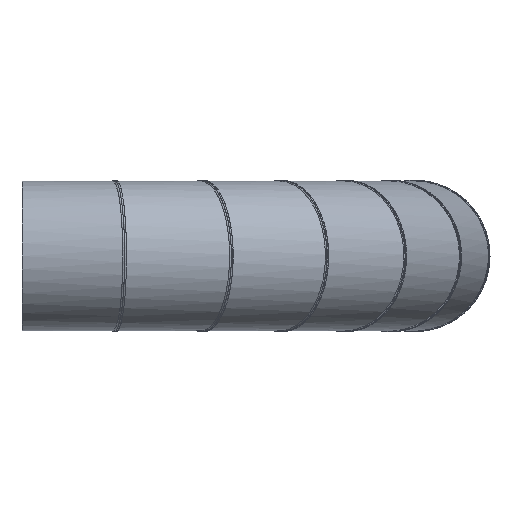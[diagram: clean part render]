
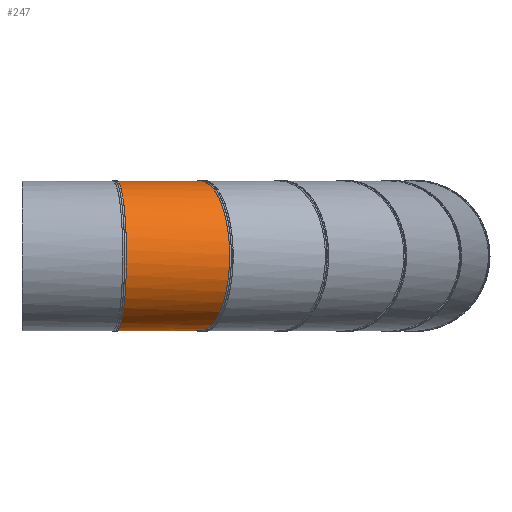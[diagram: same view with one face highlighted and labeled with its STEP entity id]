
A CAD part, front view. The second image highlights one B-rep face of the part: STEP entity #247.
In plain terms, the highlighted cylindrical face has radius 315 mm (diameter 630 mm), a full revolution.
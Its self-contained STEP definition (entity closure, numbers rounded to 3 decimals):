
#74=ORIENTED_EDGE('',*,*,#126,.F.);
#75=ORIENTED_EDGE('',*,*,#127,.T.);
#126=EDGE_CURVE('',#152,#152,#172,.T.);
#127=EDGE_CURVE('',#153,#153,#173,.T.);
#152=VERTEX_POINT('',#445);
#153=VERTEX_POINT('',#483);
#172=B_SPLINE_CURVE_WITH_KNOTS('',3,(#408,#409,#410,#411,#412,#413,#414,
#415,#416,#417,#418,#419,#420,#421,#422,#423,#424,#425,#426,#427,#428,#429,
#430,#431,#432,#433,#434,#435,#436,#437,#438,#439,#440,#441,#442,#443,#444),
 .UNSPECIFIED.,.T.,.F.,(1,1,1,1,1,1,1,1,1,1,1,1,1,1,1,1,1,1,1,1,1,1,1,1,
1,1,1,1,1,1,1,1,1,1,1,1,1,1,1,1,1),(-0.124,-0.062,
-0.031,0.,0.031,0.062,
0.124,0.186,0.249,0.311,
0.373,0.435,0.497,0.559,
0.622,0.684,0.746,0.808,
0.87,0.932,0.995,1.057,
1.119,1.181,1.243,1.305,1.368,
1.43,1.492,1.554,1.616,1.678,
1.741,1.803,1.865,1.927,1.958,
1.989,2.02,2.051,2.114),
 .UNSPECIFIED.);
#173=B_SPLINE_CURVE_WITH_KNOTS('',3,(#446,#447,#448,#449,#450,#451,#452,
#453,#454,#455,#456,#457,#458,#459,#460,#461,#462,#463,#464,#465,#466,#467,
#468,#469,#470,#471,#472,#473,#474,#475,#476,#477,#478,#479,#480,#481,#482),
 .UNSPECIFIED.,.T.,.F.,(1,1,1,1,1,1,1,1,1,1,1,1,1,1,1,1,1,1,1,1,1,1,1,1,
1,1,1,1,1,1,1,1,1,1,1,1,1,1,1,1,1),(-0.124,-0.062,
-0.031,0.,0.031,0.062,
0.124,0.186,0.249,0.311,
0.373,0.435,0.497,0.559,
0.622,0.684,0.746,0.808,
0.87,0.932,0.995,1.057,
1.119,1.181,1.243,1.305,1.368,
1.43,1.492,1.554,1.616,1.678,
1.741,1.803,1.865,1.927,1.958,
1.989,2.02,2.051,2.114),
 .UNSPECIFIED.);
#181=EDGE_LOOP('',(#74));
#182=EDGE_LOOP('',(#75));
#209=FACE_BOUND('',#181,.T.);
#210=FACE_BOUND('',#182,.T.);
#237=CYLINDRICAL_SURFACE('',#290,315.);
#247=ADVANCED_FACE('',(#209,#210),#237,.T.);
#290=AXIS2_PLACEMENT_3D('',#407,#330,#331);
#330=DIRECTION('',(0.259,0.966,0.));
#331=DIRECTION('',(-0.966,0.259,0.));
#407=CARTESIAN_POINT('',(1465.096,-151.413,0.));
#408=CARTESIAN_POINT('',(1138.303,-157.895,-31.029));
#409=CARTESIAN_POINT('',(1136.773,-157.693,-0.009));
#410=CARTESIAN_POINT('',(1138.306,-157.896,31.065));
#411=CARTESIAN_POINT('',(1144.413,-158.701,72.062));
#412=CARTESIAN_POINT('',(1159.563,-160.699,121.789));
#413=CARTESIAN_POINT('',(1189.036,-164.585,176.677));
#414=CARTESIAN_POINT('',(1228.602,-169.8,224.671));
#415=CARTESIAN_POINT('',(1276.689,-176.138,263.956));
#416=CARTESIAN_POINT('',(1331.419,-183.349,293.077));
#417=CARTESIAN_POINT('',(1390.697,-191.157,310.976));
#418=CARTESIAN_POINT('',(1452.283,-199.266,317.013));
#419=CARTESIAN_POINT('',(1513.868,-207.373,310.973));
#420=CARTESIAN_POINT('',(1573.145,-215.173,293.072));
#421=CARTESIAN_POINT('',(1627.876,-222.373,263.949));
#422=CARTESIAN_POINT('',(1675.959,-228.696,224.669));
#423=CARTESIAN_POINT('',(1715.538,-233.9,176.66));
#424=CARTESIAN_POINT('',(1745.006,-237.774,121.774));
#425=CARTESIAN_POINT('',(1763.189,-240.164,62.104));
#426=CARTESIAN_POINT('',(1769.332,-240.971,-0.011));
#427=CARTESIAN_POINT('',(1763.184,-240.163,-62.126));
#428=CARTESIAN_POINT('',(1744.998,-237.773,-121.794));
#429=CARTESIAN_POINT('',(1715.526,-233.898,-176.677));
#430=CARTESIAN_POINT('',(1675.947,-228.695,-224.68));
#431=CARTESIAN_POINT('',(1627.859,-222.37,-263.96));
#432=CARTESIAN_POINT('',(1573.126,-215.17,-293.08));
#433=CARTESIAN_POINT('',(1513.847,-207.37,-310.977));
#434=CARTESIAN_POINT('',(1452.26,-199.263,-317.013));
#435=CARTESIAN_POINT('',(1390.675,-191.154,-310.972));
#436=CARTESIAN_POINT('',(1331.4,-183.346,-293.069));
#437=CARTESIAN_POINT('',(1276.672,-176.136,-263.944));
#438=CARTESIAN_POINT('',(1228.592,-169.799,-224.662));
#439=CARTESIAN_POINT('',(1189.018,-164.582,-176.652));
#440=CARTESIAN_POINT('',(1159.554,-160.697,-121.763));
#441=CARTESIAN_POINT('',(1144.407,-158.7,-72.041));
#442=CARTESIAN_POINT('',(1138.303,-157.895,-31.029));
#443=CARTESIAN_POINT('',(1136.773,-157.693,-0.009));
#444=CARTESIAN_POINT('',(1138.306,-157.896,31.065));
#445=CARTESIAN_POINT('',(1137.284,-157.761,0.));
#446=CARTESIAN_POINT('',(1064.747,-432.41,-31.029));
#447=CARTESIAN_POINT('',(1063.321,-431.82,-0.009));
#448=CARTESIAN_POINT('',(1064.749,-432.411,31.065));
#449=CARTESIAN_POINT('',(1070.441,-434.768,72.062));
#450=CARTESIAN_POINT('',(1084.561,-440.613,121.789));
#451=CARTESIAN_POINT('',(1112.028,-451.983,176.677));
#452=CARTESIAN_POINT('',(1148.901,-467.25,224.671));
#453=CARTESIAN_POINT('',(1193.714,-485.804,263.956));
#454=CARTESIAN_POINT('',(1244.717,-506.925,293.077));
#455=CARTESIAN_POINT('',(1299.957,-529.802,310.976));
#456=CARTESIAN_POINT('',(1357.347,-553.572,317.013));
#457=CARTESIAN_POINT('',(1414.735,-577.344,310.973));
#458=CARTESIAN_POINT('',(1469.97,-600.228,293.072));
#459=CARTESIAN_POINT('',(1520.968,-621.358,263.948));
#460=CARTESIAN_POINT('',(1565.771,-639.923,224.669));
#461=CARTESIAN_POINT('',(1602.649,-655.206,176.66));
#462=CARTESIAN_POINT('',(1630.107,-666.585,121.774));
#463=CARTESIAN_POINT('',(1647.048,-673.607,62.104));
#464=CARTESIAN_POINT('',(1652.772,-675.979,-0.012));
#465=CARTESIAN_POINT('',(1647.044,-673.605,-62.127));
#466=CARTESIAN_POINT('',(1630.099,-666.582,-121.794));
#467=CARTESIAN_POINT('',(1602.638,-655.201,-176.677));
#468=CARTESIAN_POINT('',(1565.76,-639.918,-224.68));
#469=CARTESIAN_POINT('',(1520.953,-621.351,-263.96));
#470=CARTESIAN_POINT('',(1469.952,-600.22,-293.08));
#471=CARTESIAN_POINT('',(1414.714,-577.336,-310.977));
#472=CARTESIAN_POINT('',(1357.326,-553.563,-317.013));
#473=CARTESIAN_POINT('',(1299.937,-529.793,-310.972));
#474=CARTESIAN_POINT('',(1244.699,-506.917,-293.069));
#475=CARTESIAN_POINT('',(1193.697,-485.798,-263.944));
#476=CARTESIAN_POINT('',(1148.891,-467.246,-224.661));
#477=CARTESIAN_POINT('',(1112.011,-451.976,-176.651));
#478=CARTESIAN_POINT('',(1084.551,-440.609,-121.762));
#479=CARTESIAN_POINT('',(1070.435,-434.765,-72.04));
#480=CARTESIAN_POINT('',(1064.747,-432.41,-31.029));
#481=CARTESIAN_POINT('',(1063.321,-431.82,-0.009));
#482=CARTESIAN_POINT('',(1064.749,-432.411,31.065));
#483=CARTESIAN_POINT('',(1063.797,-432.017,0.));
